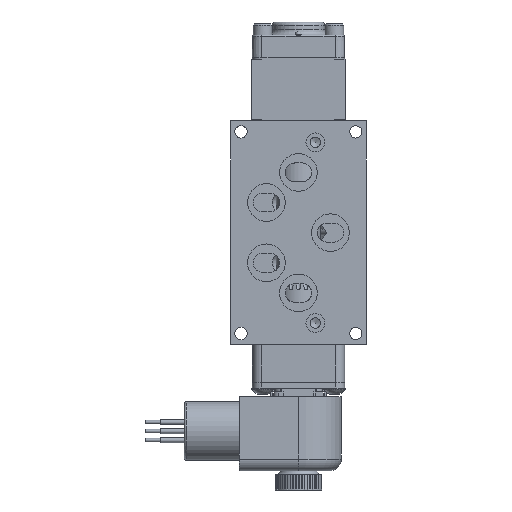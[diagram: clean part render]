
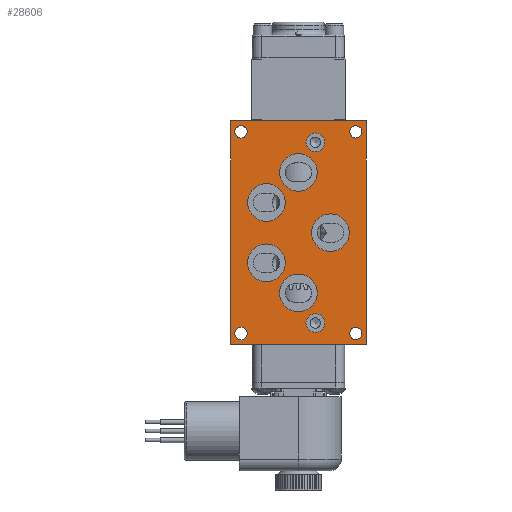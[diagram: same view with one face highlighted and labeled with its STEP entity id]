
A CAD part, front view. The second image highlights one B-rep face of the part: STEP entity #28606.
In plain terms, the highlighted planar face has unit normal (0, -1, 0).
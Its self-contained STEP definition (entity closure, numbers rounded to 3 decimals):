
#504=FACE_BOUND('',#5726,.T.);
#505=FACE_BOUND('',#5727,.T.);
#506=FACE_BOUND('',#5728,.T.);
#507=FACE_BOUND('',#5729,.T.);
#508=FACE_BOUND('',#5730,.T.);
#509=FACE_BOUND('',#5731,.T.);
#510=FACE_BOUND('',#5732,.T.);
#511=FACE_BOUND('',#5733,.T.);
#512=FACE_BOUND('',#5734,.T.);
#513=FACE_BOUND('',#5735,.T.);
#514=FACE_BOUND('',#5736,.T.);
#2230=CIRCLE('',#31474,0.396);
#2231=CIRCLE('',#31475,0.396);
#2232=CIRCLE('',#31476,0.794);
#2233=CIRCLE('',#31477,0.794);
#2234=CIRCLE('',#31478,0.794);
#2235=CIRCLE('',#31479,0.794);
#2236=CIRCLE('',#31480,0.794);
#2237=CIRCLE('',#31481,0.258);
#2238=CIRCLE('',#31482,0.258);
#2239=CIRCLE('',#31483,0.258);
#2240=CIRCLE('',#31484,0.258);
#3955=FACE_OUTER_BOUND('',#5725,.T.);
#5725=EDGE_LOOP('',(#23266,#23267,#23268,#23269));
#5726=EDGE_LOOP('',(#23270));
#5727=EDGE_LOOP('',(#23271));
#5728=EDGE_LOOP('',(#23272));
#5729=EDGE_LOOP('',(#23273));
#5730=EDGE_LOOP('',(#23274));
#5731=EDGE_LOOP('',(#23275));
#5732=EDGE_LOOP('',(#23276));
#5733=EDGE_LOOP('',(#23277));
#5734=EDGE_LOOP('',(#23278));
#5735=EDGE_LOOP('',(#23279));
#5736=EDGE_LOOP('',(#23280));
#6644=LINE('',#42330,#8577);
#7801=LINE('',#50012,#9734);
#7802=LINE('',#50014,#9735);
#7803=LINE('',#50015,#9736);
#8577=VECTOR('',#33750,1.);
#9734=VECTOR('',#38641,1.);
#9735=VECTOR('',#38642,1.);
#9736=VECTOR('',#38643,1.);
#11090=VERTEX_POINT('',#42326);
#11092=VERTEX_POINT('',#42329);
#12585=VERTEX_POINT('',#50011);
#12586=VERTEX_POINT('',#50013);
#12587=VERTEX_POINT('',#50016);
#12588=VERTEX_POINT('',#50018);
#12589=VERTEX_POINT('',#50020);
#12590=VERTEX_POINT('',#50022);
#12591=VERTEX_POINT('',#50024);
#12592=VERTEX_POINT('',#50026);
#12593=VERTEX_POINT('',#50028);
#12594=VERTEX_POINT('',#50030);
#12595=VERTEX_POINT('',#50032);
#12596=VERTEX_POINT('',#50034);
#12597=VERTEX_POINT('',#50036);
#13899=EDGE_CURVE('',#11092,#11090,#6644,.T.);
#16257=EDGE_CURVE('',#11090,#12585,#7801,.T.);
#16258=EDGE_CURVE('',#12585,#12586,#7802,.T.);
#16259=EDGE_CURVE('',#12586,#11092,#7803,.T.);
#16260=EDGE_CURVE('',#12587,#12587,#2230,.T.);
#16261=EDGE_CURVE('',#12588,#12588,#2231,.T.);
#16262=EDGE_CURVE('',#12589,#12589,#2232,.T.);
#16263=EDGE_CURVE('',#12590,#12590,#2233,.T.);
#16264=EDGE_CURVE('',#12591,#12591,#2234,.T.);
#16265=EDGE_CURVE('',#12592,#12592,#2235,.T.);
#16266=EDGE_CURVE('',#12593,#12593,#2236,.T.);
#16267=EDGE_CURVE('',#12594,#12594,#2237,.T.);
#16268=EDGE_CURVE('',#12595,#12595,#2238,.T.);
#16269=EDGE_CURVE('',#12596,#12596,#2239,.T.);
#16270=EDGE_CURVE('',#12597,#12597,#2240,.T.);
#23266=ORIENTED_EDGE('',*,*,#13899,.T.);
#23267=ORIENTED_EDGE('',*,*,#16257,.T.);
#23268=ORIENTED_EDGE('',*,*,#16258,.T.);
#23269=ORIENTED_EDGE('',*,*,#16259,.T.);
#23270=ORIENTED_EDGE('',*,*,#16260,.T.);
#23271=ORIENTED_EDGE('',*,*,#16261,.T.);
#23272=ORIENTED_EDGE('',*,*,#16262,.T.);
#23273=ORIENTED_EDGE('',*,*,#16263,.T.);
#23274=ORIENTED_EDGE('',*,*,#16264,.T.);
#23275=ORIENTED_EDGE('',*,*,#16265,.T.);
#23276=ORIENTED_EDGE('',*,*,#16266,.T.);
#23277=ORIENTED_EDGE('',*,*,#16267,.T.);
#23278=ORIENTED_EDGE('',*,*,#16268,.T.);
#23279=ORIENTED_EDGE('',*,*,#16269,.T.);
#23280=ORIENTED_EDGE('',*,*,#16270,.T.);
#25564=PLANE('',#31473);
#28606=ADVANCED_FACE('',(#3955,#504,#505,#506,#507,#508,#509,#510,#511,
#512,#513,#514),#25564,.T.);
#31473=AXIS2_PLACEMENT_3D('',#50010,#38639,#38640);
#31474=AXIS2_PLACEMENT_3D('',#50017,#38644,#38645);
#31475=AXIS2_PLACEMENT_3D('',#50019,#38646,#38647);
#31476=AXIS2_PLACEMENT_3D('',#50021,#38648,#38649);
#31477=AXIS2_PLACEMENT_3D('',#50023,#38650,#38651);
#31478=AXIS2_PLACEMENT_3D('',#50025,#38652,#38653);
#31479=AXIS2_PLACEMENT_3D('',#50027,#38654,#38655);
#31480=AXIS2_PLACEMENT_3D('',#50029,#38656,#38657);
#31481=AXIS2_PLACEMENT_3D('',#50031,#38658,#38659);
#31482=AXIS2_PLACEMENT_3D('',#50033,#38660,#38661);
#31483=AXIS2_PLACEMENT_3D('',#50035,#38662,#38663);
#31484=AXIS2_PLACEMENT_3D('',#50037,#38664,#38665);
#33750=DIRECTION('',(-1.,0.,0.));
#38639=DIRECTION('center_axis',(0.,-1.,0.));
#38640=DIRECTION('ref_axis',(0.,0.,-1.));
#38641=DIRECTION('',(0.,0.,-1.));
#38642=DIRECTION('',(1.,0.,0.));
#38643=DIRECTION('',(0.,0.,1.));
#38644=DIRECTION('center_axis',(0.,1.,0.));
#38645=DIRECTION('ref_axis',(1.,0.,0.));
#38646=DIRECTION('center_axis',(0.,1.,0.));
#38647=DIRECTION('ref_axis',(1.,0.,0.));
#38648=DIRECTION('center_axis',(0.,1.,0.));
#38649=DIRECTION('ref_axis',(1.,0.,0.));
#38650=DIRECTION('center_axis',(0.,1.,0.));
#38651=DIRECTION('ref_axis',(1.,0.,0.));
#38652=DIRECTION('center_axis',(0.,1.,0.));
#38653=DIRECTION('ref_axis',(1.,0.,0.));
#38654=DIRECTION('center_axis',(0.,1.,0.));
#38655=DIRECTION('ref_axis',(1.,0.,0.));
#38656=DIRECTION('center_axis',(0.,1.,0.));
#38657=DIRECTION('ref_axis',(1.,0.,0.));
#38658=DIRECTION('center_axis',(0.,1.,0.));
#38659=DIRECTION('ref_axis',(1.,0.,0.));
#38660=DIRECTION('center_axis',(0.,1.,0.));
#38661=DIRECTION('ref_axis',(1.,0.,0.));
#38662=DIRECTION('center_axis',(0.,1.,0.));
#38663=DIRECTION('ref_axis',(1.,0.,0.));
#38664=DIRECTION('center_axis',(0.,1.,0.));
#38665=DIRECTION('ref_axis',(1.,0.,0.));
#42326=CARTESIAN_POINT('',(-2.858,-1.636,4.71));
#42329=CARTESIAN_POINT('',(2.858,-1.636,4.71));
#42330=CARTESIAN_POINT('',(-2.858,-1.636,4.71));
#50010=CARTESIAN_POINT('Origin',(2.858,-1.636,0.));
#50011=CARTESIAN_POINT('',(-2.858,-1.636,-4.71));
#50012=CARTESIAN_POINT('',(-2.858,-1.636,0.));
#50013=CARTESIAN_POINT('',(2.858,-1.636,-4.71));
#50014=CARTESIAN_POINT('',(-2.858,-1.636,-4.71));
#50015=CARTESIAN_POINT('',(2.858,-1.636,0.));
#50016=CARTESIAN_POINT('',(0.318,-1.636,-3.81));
#50017=CARTESIAN_POINT('Origin',(0.714,-1.636,-3.81));
#50018=CARTESIAN_POINT('',(0.318,-1.636,3.81));
#50019=CARTESIAN_POINT('Origin',(0.714,-1.636,3.81));
#50020=CARTESIAN_POINT('',(0.555,-1.636,0.));
#50021=CARTESIAN_POINT('Origin',(1.349,-1.636,0.));
#50022=CARTESIAN_POINT('',(-0.794,-1.636,-2.54));
#50023=CARTESIAN_POINT('Origin',(0.,-1.636,-2.54));
#50024=CARTESIAN_POINT('',(-0.794,-1.636,2.54));
#50025=CARTESIAN_POINT('Origin',(0.,-1.636,2.54));
#50026=CARTESIAN_POINT('',(-2.142,-1.636,-1.27));
#50027=CARTESIAN_POINT('Origin',(-1.349,-1.636,-1.27));
#50028=CARTESIAN_POINT('',(-2.142,-1.636,1.27));
#50029=CARTESIAN_POINT('Origin',(-1.349,-1.636,1.27));
#50030=CARTESIAN_POINT('',(-2.679,-1.636,4.247));
#50031=CARTESIAN_POINT('Origin',(-2.421,-1.636,4.247));
#50032=CARTESIAN_POINT('',(2.163,-1.636,4.247));
#50033=CARTESIAN_POINT('Origin',(2.421,-1.636,4.247));
#50034=CARTESIAN_POINT('',(2.163,-1.636,-4.247));
#50035=CARTESIAN_POINT('Origin',(2.421,-1.636,-4.247));
#50036=CARTESIAN_POINT('',(-2.679,-1.636,-4.247));
#50037=CARTESIAN_POINT('Origin',(-2.421,-1.636,-4.247));
